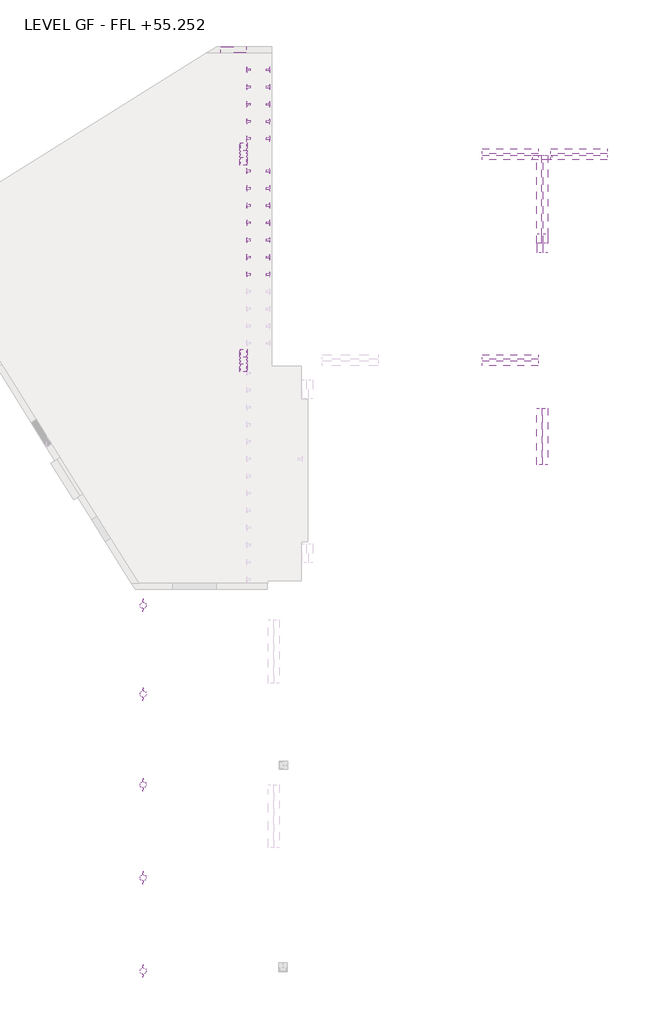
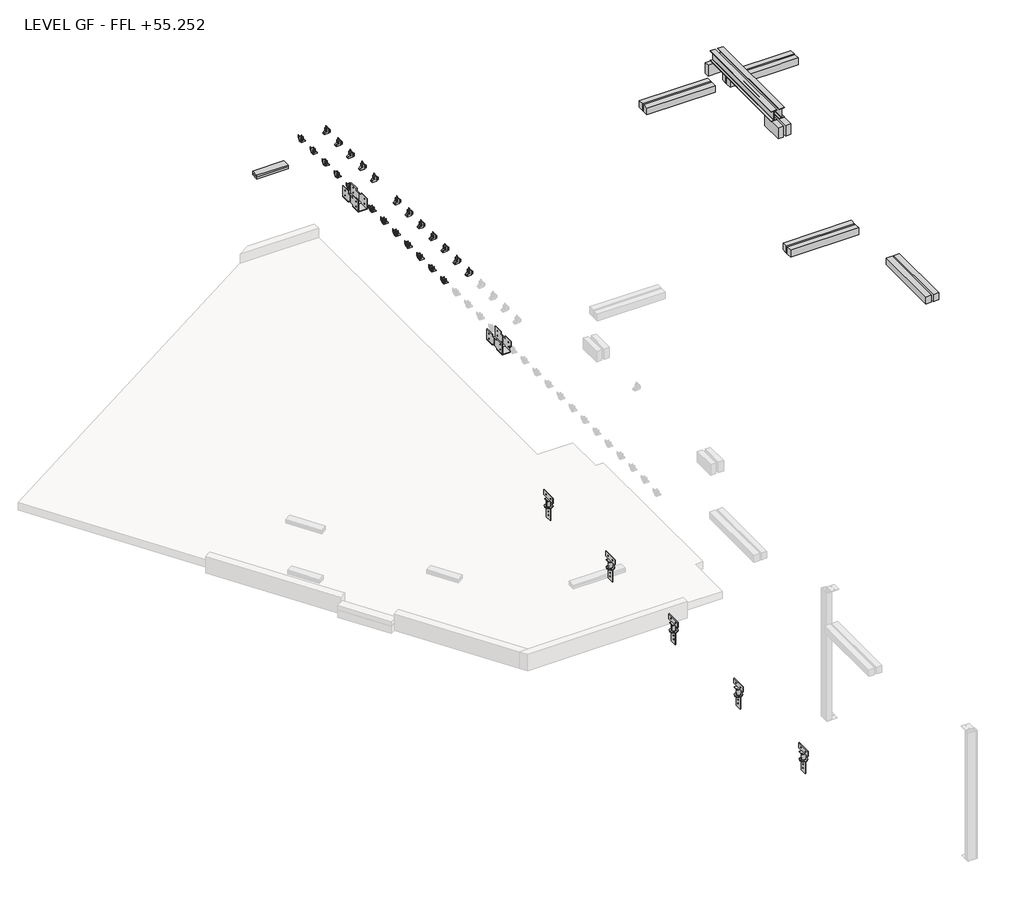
# One storey, part 2 of 2: 24 fasteners, 17 proxies, 15 beams.
"""IFC4 building model written with IfcOpenShell, lengths in millimetres."""

from ifc_helpers import new_model, si_unit, frame, origin, place, context, project, spatial, polyline, outline, extrude, transform, mapped, element, save
from components import concrete_rectangular_beam_110_x_100mm_af151667, ukb203x102x23_61a5cdbc, ukb203x102x23_350e925e, canopy_column_head_connection_canopy_column_head_connection_66bd8aa7, fin_plate_purlin_beam_connection_base_plate10_fin_plate_6cf5c322, fin_plate_purlin_beam_connection_base_plate7_fin_plate_c9cc26e2, fin_plate_purlin_beam_connection_base_plate8_fin_plate_71e1d856, fin_plate_purlin_beam_connection_base_plate9_fin_plate_a116dd7e, fin_plate_purlin_beam_connection15_fin_plate_purlin_beam_166290e8, fin_plate_purlin_beam_connection16_fin_plate_purlin_beam_bf154655, fin_plate_purlin_beam_connection18_fin_plate_purlin_beam_246c442c, fin_plate_purlin_beam_connection19_fin_plate_purlin_beam_04d053e4, fin_plate_purlin_beam_connection20_fin_plate_purlin_beam_3d1b8796, fin_plate_purlin_beam_connection21_fin_plate_purlin_beam_aa315e5e, fin_plate_purlin_beam_connection22_fin_plate_purlin_beam_f8feaea3, fin_plate_purlin_beam_connection23_fin_plate_purlin_beam_92e7c56d, sae250_50_2_sae250_50_2_05dc8403

model = new_model("IFC4")

# Units and contexts
model_context = context("Model", 3, world=origin())
ifc_project = project(units=[si_unit("LENGTHUNIT", "METRE", prefix="MILLI")], contexts=[model_context])

# Site, building, storey
site = spatial("IfcSite", under=ifc_project)
building = spatial("IfcBuilding", under=site)
storey = spatial("IfcBuildingStorey", under=building, Name="LEVEL GF - FFL +55.252", Elevation=242.0)

# Beams
placement = place(None, origin())
element("IfcBeam", 1, ObjectType="Graded Timber : 38x140", at=placement, inside=storey, context=model_context, shape_type="SweptSolid", body=[
    extrude(outline(polyline([(-29972.0411236, 18202.3367982), (-29972.0411236, 18342.3367982), (-29372.2720473, 18342.3367982), (-29372.2720473, 18202.3367982), (-29972.0411236, 18202.3367982)])), frame((0.0, 0.0, 1666.0), z_axis=(0.0, 0.0, 1.0), x_axis=(1.0, 0.0, 0.0)), (0.0, 0.0, 1.0), 38.0),
])
element("IfcBeam", 2, ObjectType="Graded Timber : 38x140", at=placement, inside=storey, context=model_context, shape_type="SweptSolid", body=[
    extrude(outline(polyline([(-29972.0411236, 18202.3367982), (-29972.0411236, 18342.3367982), (-29372.2720473, 18342.3367982), (-29372.2720473, 18202.3367982), (-29972.0411236, 18202.3367982)])), frame((0.0, 0.0, 1704.0), z_axis=(0.0, 0.0, 1.0), x_axis=(1.0, 0.0, 0.0)), (0.0, 0.0, 1.0), 38.0),
])
element("IfcBeam", 3, ObjectType="Concrete-Rectangular Beam : 110 x 100mm", at=placement, inside=storey, context=model_context, shape_type="SweptSolid", body=[
    extrude(outline(polyline([(-20989.6460033, 15826.9669708), (-20989.6460033, 15716.9669708), (-22299.6460033, 15716.9669708), (-22299.6460033, 15826.9669708), (-20989.6460033, 15826.9669708)])), frame((0.0, 0.0, 2352.0), z_axis=(0.0, 0.0, 1.0), x_axis=(1.0, 0.0, 0.0)), (0.0, 0.0, 1.0), 140.0),
])
concrete_rectangular_beam_110_x_100mm_shape = concrete_rectangular_beam_110_x_100mm_af151667(model_context)
element("IfcBeam", 4, ObjectType="Concrete-Rectangular Beam : 110 x 100mm", at=placement, inside=storey, context=model_context, shape_type="MappedRepresentation", body=[
    mapped(concrete_rectangular_beam_110_x_100mm_shape, transform((-23244.6460033, 15911.9669708, 2422.0), x_axis=(1.0, 0.0, 0.0), y_axis=(0.0, 1.0, 0.0), z_axis=(0.0, 0.0, 1.0))),
])
element("IfcBeam", 5, ObjectType="Concrete-Rectangular Beam : 110 x 100mm", at=placement, inside=storey, context=model_context, shape_type="MappedRepresentation", body=[
    mapped(concrete_rectangular_beam_110_x_100mm_shape, transform((-21644.6460033, 15911.9669708, 2422.0), x_axis=(1.0, 0.0, 0.0), y_axis=(0.0, 1.0, 0.0), z_axis=(0.0, 0.0, 1.0))),
])
element("IfcBeam", 6, ObjectType="Concrete-Rectangular Beam : 110 x 100mm", at=placement, inside=storey, context=model_context, shape_type="MappedRepresentation", body=[
    mapped(concrete_rectangular_beam_110_x_100mm_shape, transform((-23244.6460033, 15771.9669708, 2422.0), x_axis=(1.0, 0.0, 0.0), y_axis=(0.0, 1.0, 0.0), z_axis=(0.0, 0.0, 1.0))),
])
element("IfcBeam", 7, ObjectType="Concrete-Rectangular Beam : 110 x 100mm", at=placement, inside=storey, context=model_context, shape_type="MappedRepresentation", body=[
    mapped(concrete_rectangular_beam_110_x_100mm_shape, transform((-23242.6460034, 11131.9669708, 2422.0), x_axis=(1.0, 0.0, 0.0), y_axis=(0.0, 1.0, 0.0), z_axis=(0.0, 0.0, 1.0))),
])
element("IfcBeam", 8, ObjectType="Concrete-Rectangular Beam : 110 x 100mm", at=placement, inside=storey, context=model_context, shape_type="MappedRepresentation", body=[
    mapped(concrete_rectangular_beam_110_x_100mm_shape, transform((-23242.6460034, 10991.9669708, 2422.0), x_axis=(1.0, 0.0, 0.0), y_axis=(0.0, 1.0, 0.0), z_axis=(0.0, 0.0, 1.0))),
])
element("IfcBeam", 9, ObjectType="Concrete-Rectangular Beam : 110 x 100mm", at=placement, inside=storey, context=model_context, shape_type="MappedRepresentation", body=[
    mapped(concrete_rectangular_beam_110_x_100mm_shape, transform((-22567.9371107, 9291.2580781, 2422.0), x_axis=(0.0, 1.0, 0.0), y_axis=(-1.0, 0.0, 0.0), z_axis=(0.0, 0.0, 1.0))),
])
element("IfcBeam", 10, ObjectType="Concrete-Rectangular Beam : 110 x 100mm", at=placement, inside=storey, context=model_context, shape_type="MappedRepresentation", body=[
    mapped(concrete_rectangular_beam_110_x_100mm_shape, transform((-22427.9371107, 9291.2580781, 2422.0), x_axis=(0.0, 1.0, 0.0), y_axis=(-1.0, 0.0, 0.0), z_axis=(0.0, 0.0, 1.0))),
])
element("IfcBeam", 11, ObjectType="Concrete-Rectangular Beam : 215 x 100mm", at=placement, inside=storey, context=model_context, shape_type="SweptSolid", body=[
    extrude(outline(polyline([(-22279.7371106, 15821.9669708), (-22279.7371106, 15721.9669708), (-22719.7371106, 15721.9669708), (-22719.7371106, 15821.9669708), (-22279.7371106, 15821.9669708)])), frame((0.0, 0.0, 2726.8), z_axis=(0.0, 0.0, 1.0), x_axis=(1.0, 0.0, 0.0)), (0.0, 0.0, 1.0), 215.0),
])
element("IfcBeam", 12, ObjectType="Concrete-Rectangular Beam : 215 x 100mm", at=placement, inside=storey, context=model_context, shape_type="SweptSolid", body=[
    extrude(outline(polyline([(-22473.9371106, 14001.9669708), (-22373.9371106, 14001.9669708), (-22373.9371106, 13561.9669708), (-22473.9371106, 13561.9669708), (-22473.9371106, 14001.9669708)])), frame((0.0, 0.0, 2726.8), z_axis=(0.0, 0.0, 1.0), x_axis=(1.0, 0.0, 0.0)), (0.0, 0.0, 1.0), 215.0),
])
element("IfcBeam", 13, ObjectType="Concrete-Rectangular Beam : 215 x 100mm", at=placement, inside=storey, context=model_context, shape_type="SweptSolid", body=[
    extrude(outline(polyline([(-22622.1371106, 14001.9669708), (-22522.1371106, 14001.9669708), (-22522.1371106, 13561.9669708), (-22622.1371106, 13561.9669708), (-22622.1371106, 14001.9669708)])), frame((0.0, 0.0, 2726.8), z_axis=(0.0, 0.0, 1.0), x_axis=(1.0, 0.0, 0.0)), (0.0, 0.0, 1.0), 215.0),
])
ukb203x102x23_shape = ukb203x102x23_61a5cdbc(model_context)
element("IfcBeam", 14, ObjectType="UKB-UK Beams : UKB203x102x23", at=placement, inside=storey, context=model_context, shape_type="MappedRepresentation", body=[
    mapped(ukb203x102x23_shape, transform((-22572.0371106, 14765.8860967, 3043.4), x_axis=(0.0, -1.0, 0.0), y_axis=(1.0, 0.0, 0.0), z_axis=(0.0, 0.0, 1.0))),
])
ukb203x102x23_2_shape = ukb203x102x23_350e925e(model_context)
element("IfcBeam", 15, ObjectType="UKB-UK Beams : UKB203x102x23", at=placement, inside=storey, context=model_context, shape_type="MappedRepresentation", body=[
    mapped(ukb203x102x23_2_shape, transform((-22423.8371106, 14779.4669708, 3043.4), x_axis=(0.0, -1.0, 0.0), y_axis=(1.0, 0.0, 0.0), z_axis=(0.0, 0.0, 1.0))),
])

# Proxies
canopy_column_head_connection_canopy_column_head_connection_shape = canopy_column_head_connection_canopy_column_head_connection_66bd8aa7(model_context)
element("IfcBuildingElementProxy", 16, Name="Canopy Column Head Connection : Canopy Column Head Connection", ObjectType="Canopy Column Head Connection : Canopy Column Head Connection", at=placement, inside=storey, context=model_context, shape_type="MappedRepresentation", body=[
    mapped(canopy_column_head_connection_canopy_column_head_connection_shape, transform((-31770.152977, -3129.6238045, 3417.0), x_axis=(1.0, 0.0, 0.0), y_axis=(0.0, 1.0, 0.0), z_axis=(0.0, 0.0, 1.0))),
])
element("IfcBuildingElementProxy", 17, Name="Canopy Column Head Connection : Canopy Column Head Connection", ObjectType="Canopy Column Head Connection : Canopy Column Head Connection", at=placement, inside=storey, context=model_context, shape_type="MappedRepresentation", body=[
    mapped(canopy_column_head_connection_canopy_column_head_connection_shape, transform((-31769.9559584, -963.6740127, 3417.0), x_axis=(1.0, 0.0, 0.0), y_axis=(0.0, 1.0, 0.0), z_axis=(0.0, 0.0, 1.0))),
])
element("IfcBuildingElementProxy", 18, Name="Canopy Column Head Connection : Canopy Column Head Connection", ObjectType="Canopy Column Head Connection : Canopy Column Head Connection", at=placement, inside=storey, context=model_context, shape_type="MappedRepresentation", body=[
    mapped(canopy_column_head_connection_canopy_column_head_connection_shape, transform((-31769.9559584, 3304.2368568, 3417.0), x_axis=(1.0, 0.0, 0.0), y_axis=(0.0, 1.0, 0.0), z_axis=(0.0, 0.0, 1.0))),
])
element("IfcBuildingElementProxy", 19, Name="Canopy Column Head Connection : Canopy Column Head Connection", ObjectType="Canopy Column Head Connection : Canopy Column Head Connection", at=placement, inside=storey, context=model_context, shape_type="MappedRepresentation", body=[
    mapped(canopy_column_head_connection_canopy_column_head_connection_shape, transform((-31769.9559584, 5364.4959246, 3417.0), x_axis=(1.0, 0.0, 0.0), y_axis=(0.0, 1.0, 0.0), z_axis=(0.0, 0.0, 1.0))),
])
element("IfcBuildingElementProxy", 20, Name="Canopy Column Head Connection : Canopy Column Head Connection", ObjectType="Canopy Column Head Connection : Canopy Column Head Connection", at=placement, inside=storey, context=model_context, shape_type="MappedRepresentation", body=[
    mapped(canopy_column_head_connection_canopy_column_head_connection_shape, transform((-31769.9559584, 1196.80418, 3417.0), x_axis=(1.0, 0.0, 0.0), y_axis=(0.0, 1.0, 0.0), z_axis=(0.0, 0.0, 1.0))),
])
fin_plate_purlin_beam_connection_base_plate10_fin_plate_shape = fin_plate_purlin_beam_connection_base_plate10_fin_plate_6cf5c322(model_context)
element("IfcBuildingElementProxy", 21, Name="Fin Plate - Purlin Beam Connection Base Plate10 : Fin Plate - Purlin Beam Connection Base Plate", ObjectType="Fin Plate - Purlin Beam Connection Base Plate10 : Fin Plate - Purlin Beam Connection Base Plate", at=placement, inside=storey, context=model_context, shape_type="MappedRepresentation", body=[
    mapped(fin_plate_purlin_beam_connection_base_plate10_fin_plate_shape, transform((0.0, 0.0, 0.0), x_axis=(1.0, 0.0, 0.0), y_axis=(0.0, 1.0, 0.0), z_axis=(0.0, 0.0, 1.0))),
])
fin_plate_purlin_beam_connection_base_plate7_fin_plate_shape = fin_plate_purlin_beam_connection_base_plate7_fin_plate_c9cc26e2(model_context)
element("IfcBuildingElementProxy", 22, Name="Fin Plate - Purlin Beam Connection Base Plate7 : Fin Plate - Purlin Beam Connection Base Plate", ObjectType="Fin Plate - Purlin Beam Connection Base Plate7 : Fin Plate - Purlin Beam Connection Base Plate", at=placement, inside=storey, context=model_context, shape_type="MappedRepresentation", body=[
    mapped(fin_plate_purlin_beam_connection_base_plate7_fin_plate_shape, transform((0.0, 0.0, 0.0), x_axis=(1.0, 0.0, 0.0), y_axis=(0.0, 1.0, 0.0), z_axis=(0.0, 0.0, 1.0))),
])
fin_plate_purlin_beam_connection_base_plate8_fin_plate_shape = fin_plate_purlin_beam_connection_base_plate8_fin_plate_71e1d856(model_context)
element("IfcBuildingElementProxy", 23, Name="Fin Plate - Purlin Beam Connection Base Plate8 : Fin Plate - Purlin Beam Connection Base Plate", ObjectType="Fin Plate - Purlin Beam Connection Base Plate8 : Fin Plate - Purlin Beam Connection Base Plate", at=placement, inside=storey, context=model_context, shape_type="MappedRepresentation", body=[
    mapped(fin_plate_purlin_beam_connection_base_plate8_fin_plate_shape, transform((0.0, 0.0, 0.0), x_axis=(1.0, 0.0, 0.0), y_axis=(0.0, 1.0, 0.0), z_axis=(0.0, 0.0, 1.0))),
])
fin_plate_purlin_beam_connection_base_plate9_fin_plate_shape = fin_plate_purlin_beam_connection_base_plate9_fin_plate_a116dd7e(model_context)
element("IfcBuildingElementProxy", 24, Name="Fin Plate - Purlin Beam Connection Base Plate9 : Fin Plate - Purlin Beam Connection Base Plate", ObjectType="Fin Plate - Purlin Beam Connection Base Plate9 : Fin Plate - Purlin Beam Connection Base Plate", at=placement, inside=storey, context=model_context, shape_type="MappedRepresentation", body=[
    mapped(fin_plate_purlin_beam_connection_base_plate9_fin_plate_shape, transform((0.0, 0.0, 0.0), x_axis=(1.0, 0.0, 0.0), y_axis=(0.0, 1.0, 0.0), z_axis=(0.0, 0.0, 1.0))),
])
fin_plate_purlin_beam_connection15_fin_plate_purlin_beam_shape = fin_plate_purlin_beam_connection15_fin_plate_purlin_beam_166290e8(model_context)
element("IfcBuildingElementProxy", 25, Name="Fin Plate Purlin Beam Connection15 : Fin Plate Purlin Beam Connection", ObjectType="Fin Plate Purlin Beam Connection15 : Fin Plate Purlin Beam Connection", at=placement, inside=storey, context=model_context, shape_type="MappedRepresentation", body=[
    mapped(fin_plate_purlin_beam_connection15_fin_plate_purlin_beam_shape, transform((0.0, 0.0, 0.0), x_axis=(1.0, 0.0, 0.0), y_axis=(0.0, 1.0, 0.0), z_axis=(0.0, 0.0, 1.0))),
])
fin_plate_purlin_beam_connection16_fin_plate_purlin_beam_shape = fin_plate_purlin_beam_connection16_fin_plate_purlin_beam_bf154655(model_context)
element("IfcBuildingElementProxy", 26, Name="Fin Plate Purlin Beam Connection16 : Fin Plate Purlin Beam Connection", ObjectType="Fin Plate Purlin Beam Connection16 : Fin Plate Purlin Beam Connection", at=placement, inside=storey, context=model_context, shape_type="MappedRepresentation", body=[
    mapped(fin_plate_purlin_beam_connection16_fin_plate_purlin_beam_shape, transform((0.0, 0.0, 0.0), x_axis=(1.0, 0.0, 0.0), y_axis=(0.0, 1.0, 0.0), z_axis=(0.0, 0.0, 1.0))),
])
fin_plate_purlin_beam_connection18_fin_plate_purlin_beam_shape = fin_plate_purlin_beam_connection18_fin_plate_purlin_beam_246c442c(model_context)
element("IfcBuildingElementProxy", 27, Name="Fin Plate Purlin Beam Connection18 : Fin Plate Purlin Beam Connection", ObjectType="Fin Plate Purlin Beam Connection18 : Fin Plate Purlin Beam Connection", at=placement, inside=storey, context=model_context, shape_type="MappedRepresentation", body=[
    mapped(fin_plate_purlin_beam_connection18_fin_plate_purlin_beam_shape, transform((0.0, 0.0, 0.0), x_axis=(1.0, 0.0, 0.0), y_axis=(0.0, 1.0, 0.0), z_axis=(0.0, 0.0, 1.0))),
])
fin_plate_purlin_beam_connection19_fin_plate_purlin_beam_shape = fin_plate_purlin_beam_connection19_fin_plate_purlin_beam_04d053e4(model_context)
element("IfcBuildingElementProxy", 28, Name="Fin Plate Purlin Beam Connection19 : Fin Plate Purlin Beam Connection", ObjectType="Fin Plate Purlin Beam Connection19 : Fin Plate Purlin Beam Connection", at=placement, inside=storey, context=model_context, shape_type="MappedRepresentation", body=[
    mapped(fin_plate_purlin_beam_connection19_fin_plate_purlin_beam_shape, transform((0.0, 0.0, 0.0), x_axis=(1.0, 0.0, 0.0), y_axis=(0.0, 1.0, 0.0), z_axis=(0.0, 0.0, 1.0))),
])
fin_plate_purlin_beam_connection20_fin_plate_purlin_beam_shape = fin_plate_purlin_beam_connection20_fin_plate_purlin_beam_3d1b8796(model_context)
element("IfcBuildingElementProxy", 29, Name="Fin Plate Purlin Beam Connection20 : Fin Plate Purlin Beam Connection", ObjectType="Fin Plate Purlin Beam Connection20 : Fin Plate Purlin Beam Connection", at=placement, inside=storey, context=model_context, shape_type="MappedRepresentation", body=[
    mapped(fin_plate_purlin_beam_connection20_fin_plate_purlin_beam_shape, transform((0.0, 0.0, 0.0), x_axis=(1.0, 0.0, 0.0), y_axis=(0.0, 1.0, 0.0), z_axis=(0.0, 0.0, 1.0))),
])
fin_plate_purlin_beam_connection21_fin_plate_purlin_beam_shape = fin_plate_purlin_beam_connection21_fin_plate_purlin_beam_aa315e5e(model_context)
element("IfcBuildingElementProxy", 30, Name="Fin Plate Purlin Beam Connection21 : Fin Plate Purlin Beam Connection", ObjectType="Fin Plate Purlin Beam Connection21 : Fin Plate Purlin Beam Connection", at=placement, inside=storey, context=model_context, shape_type="MappedRepresentation", body=[
    mapped(fin_plate_purlin_beam_connection21_fin_plate_purlin_beam_shape, transform((0.0, 0.0, 0.0), x_axis=(1.0, 0.0, 0.0), y_axis=(0.0, 1.0, 0.0), z_axis=(0.0, 0.0, 1.0))),
])
fin_plate_purlin_beam_connection22_fin_plate_purlin_beam_shape = fin_plate_purlin_beam_connection22_fin_plate_purlin_beam_f8feaea3(model_context)
element("IfcBuildingElementProxy", 31, Name="Fin Plate Purlin Beam Connection22 : Fin Plate Purlin Beam Connection", ObjectType="Fin Plate Purlin Beam Connection22 : Fin Plate Purlin Beam Connection", at=placement, inside=storey, context=model_context, shape_type="MappedRepresentation", body=[
    mapped(fin_plate_purlin_beam_connection22_fin_plate_purlin_beam_shape, transform((0.0, 0.0, 0.0), x_axis=(1.0, 0.0, 0.0), y_axis=(0.0, 1.0, 0.0), z_axis=(0.0, 0.0, 1.0))),
])
fin_plate_purlin_beam_connection23_fin_plate_purlin_beam_shape = fin_plate_purlin_beam_connection23_fin_plate_purlin_beam_92e7c56d(model_context)
element("IfcBuildingElementProxy", 32, Name="Fin Plate Purlin Beam Connection23 : Fin Plate Purlin Beam Connection", ObjectType="Fin Plate Purlin Beam Connection23 : Fin Plate Purlin Beam Connection", at=placement, inside=storey, context=model_context, shape_type="MappedRepresentation", body=[
    mapped(fin_plate_purlin_beam_connection23_fin_plate_purlin_beam_shape, transform((0.0, 0.0, 0.0), x_axis=(1.0, 0.0, 0.0), y_axis=(0.0, 1.0, 0.0), z_axis=(0.0, 0.0, 1.0))),
])

# Fasteners
sae250_50_2_sae250_50_2_shape = sae250_50_2_sae250_50_2_05dc8403(model_context)
element("IfcFastener", 33, ObjectType="sae250-50-2 : sae250-50-2", at=placement, inside=storey, context=model_context, shape_type="MappedRepresentation", body=[
    mapped(sae250_50_2_sae250_50_2_shape, transform((-28830.4398867, 16207.2459484, 2452.4), x_axis=(-5.178801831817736e-12, -1.0, 0.0), y_axis=(1.0, -5.178801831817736e-12, 0.0), z_axis=(0.0, 0.0, 1.0))),
])
element("IfcFastener", 34, ObjectType="sae250-50-2 : sae250-50-2", at=placement, inside=storey, context=model_context, shape_type="MappedRepresentation", body=[
    mapped(sae250_50_2_sae250_50_2_shape, transform((-29366.9371106, 16207.2459484, 2452.4), x_axis=(5.184908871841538e-12, 1.0, 0.0), y_axis=(-1.0, 5.184908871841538e-12, 0.0), z_axis=(0.0, 0.0, 1.0))),
])
element("IfcFastener", 35, ObjectType="sae250-50-2 : sae250-50-2", at=placement, inside=storey, context=model_context, shape_type="MappedRepresentation", body=[
    mapped(sae250_50_2_sae250_50_2_shape, transform((-28830.4398867, 16607.2459484, 2452.4), x_axis=(-5.178801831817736e-12, -1.0, 0.0), y_axis=(1.0, -5.178801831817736e-12, 0.0), z_axis=(0.0, 0.0, 1.0))),
])
element("IfcFastener", 36, ObjectType="sae250-50-2 : sae250-50-2", at=placement, inside=storey, context=model_context, shape_type="MappedRepresentation", body=[
    mapped(sae250_50_2_sae250_50_2_shape, transform((-29366.9371106, 16607.2459484, 2452.4), x_axis=(5.184908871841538e-12, 1.0, 0.0), y_axis=(-1.0, 5.184908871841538e-12, 0.0), z_axis=(0.0, 0.0, 1.0))),
])
element("IfcFastener", 37, ObjectType="sae250-50-2 : sae250-50-2", at=placement, inside=storey, context=model_context, shape_type="MappedRepresentation", body=[
    mapped(sae250_50_2_sae250_50_2_shape, transform((-28830.4398867, 17007.2459484, 2452.4), x_axis=(-5.178801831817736e-12, -1.0, 0.0), y_axis=(1.0, -5.178801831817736e-12, 0.0), z_axis=(0.0, 0.0, 1.0))),
])
element("IfcFastener", 38, ObjectType="sae250-50-2 : sae250-50-2", at=placement, inside=storey, context=model_context, shape_type="MappedRepresentation", body=[
    mapped(sae250_50_2_sae250_50_2_shape, transform((-29366.9371106, 17007.2459484, 2452.4), x_axis=(5.184908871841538e-12, 1.0, 0.0), y_axis=(-1.0, 5.184908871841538e-12, 0.0), z_axis=(0.0, 0.0, 1.0))),
])
element("IfcFastener", 39, ObjectType="sae250-50-2 : sae250-50-2", at=placement, inside=storey, context=model_context, shape_type="MappedRepresentation", body=[
    mapped(sae250_50_2_sae250_50_2_shape, transform((-28830.4398867, 17407.2459484, 2452.4), x_axis=(-5.178801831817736e-12, -1.0, 0.0), y_axis=(1.0, -5.178801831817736e-12, 0.0), z_axis=(0.0, 0.0, 1.0))),
])
element("IfcFastener", 40, ObjectType="sae250-50-2 : sae250-50-2", at=placement, inside=storey, context=model_context, shape_type="MappedRepresentation", body=[
    mapped(sae250_50_2_sae250_50_2_shape, transform((-29366.9371106, 17407.2459484, 2452.4), x_axis=(5.184908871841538e-12, 1.0, 0.0), y_axis=(-1.0, 5.184908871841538e-12, 0.0), z_axis=(0.0, 0.0, 1.0))),
])
element("IfcFastener", 41, ObjectType="sae250-50-2 : sae250-50-2", at=placement, inside=storey, context=model_context, shape_type="MappedRepresentation", body=[
    mapped(sae250_50_2_sae250_50_2_shape, transform((-28830.4398867, 17807.2459484, 2452.4), x_axis=(-5.178801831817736e-12, -1.0, 0.0), y_axis=(1.0, -5.178801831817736e-12, 0.0), z_axis=(0.0, 0.0, 1.0))),
])
element("IfcFastener", 42, ObjectType="sae250-50-2 : sae250-50-2", at=placement, inside=storey, context=model_context, shape_type="MappedRepresentation", body=[
    mapped(sae250_50_2_sae250_50_2_shape, transform((-29366.9371106, 17807.2459484, 2452.4), x_axis=(5.184908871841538e-12, 1.0, 0.0), y_axis=(-1.0, 5.184908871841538e-12, 0.0), z_axis=(0.0, 0.0, 1.0))),
])
element("IfcFastener", 43, ObjectType="sae250-50-2 : sae250-50-2", at=placement, inside=storey, context=model_context, shape_type="MappedRepresentation", body=[
    mapped(sae250_50_2_sae250_50_2_shape, transform((-28830.4398867, 15452.6961995, 2452.4), x_axis=(-5.178801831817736e-12, -1.0, 0.0), y_axis=(1.0, -5.178801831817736e-12, 0.0), z_axis=(0.0, 0.0, 1.0))),
])
element("IfcFastener", 44, ObjectType="sae250-50-2 : sae250-50-2", at=placement, inside=storey, context=model_context, shape_type="MappedRepresentation", body=[
    mapped(sae250_50_2_sae250_50_2_shape, transform((-29366.9371106, 15452.6961995, 2452.4), x_axis=(5.184908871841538e-12, 1.0, 0.0), y_axis=(-1.0, 5.184908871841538e-12, 0.0), z_axis=(0.0, 0.0, 1.0))),
])
element("IfcFastener", 45, ObjectType="sae250-50-2 : sae250-50-2", at=placement, inside=storey, context=model_context, shape_type="MappedRepresentation", body=[
    mapped(sae250_50_2_sae250_50_2_shape, transform((-28830.4398867, 15052.6961995, 2452.4), x_axis=(-5.178801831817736e-12, -1.0, 0.0), y_axis=(1.0, -5.178801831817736e-12, 0.0), z_axis=(0.0, 0.0, 1.0))),
])
element("IfcFastener", 46, ObjectType="sae250-50-2 : sae250-50-2", at=placement, inside=storey, context=model_context, shape_type="MappedRepresentation", body=[
    mapped(sae250_50_2_sae250_50_2_shape, transform((-29366.9371106, 15052.6961995, 2452.4), x_axis=(5.184908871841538e-12, 1.0, 0.0), y_axis=(-1.0, 5.184908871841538e-12, 0.0), z_axis=(0.0, 0.0, 1.0))),
])
element("IfcFastener", 47, ObjectType="sae250-50-2 : sae250-50-2", at=placement, inside=storey, context=model_context, shape_type="MappedRepresentation", body=[
    mapped(sae250_50_2_sae250_50_2_shape, transform((-28830.4398867, 14652.6961995, 2452.4), x_axis=(-5.178801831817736e-12, -1.0, 0.0), y_axis=(1.0, -5.178801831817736e-12, 0.0), z_axis=(0.0, 0.0, 1.0))),
])
element("IfcFastener", 48, ObjectType="sae250-50-2 : sae250-50-2", at=placement, inside=storey, context=model_context, shape_type="MappedRepresentation", body=[
    mapped(sae250_50_2_sae250_50_2_shape, transform((-29366.9371106, 14652.6961995, 2452.4), x_axis=(5.184908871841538e-12, 1.0, 0.0), y_axis=(-1.0, 5.184908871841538e-12, 0.0), z_axis=(0.0, 0.0, 1.0))),
])
element("IfcFastener", 49, ObjectType="sae250-50-2 : sae250-50-2", at=placement, inside=storey, context=model_context, shape_type="MappedRepresentation", body=[
    mapped(sae250_50_2_sae250_50_2_shape, transform((-28830.4398867, 14252.6961995, 2452.4), x_axis=(-5.178801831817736e-12, -1.0, 0.0), y_axis=(1.0, -5.178801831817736e-12, 0.0), z_axis=(0.0, 0.0, 1.0))),
])
element("IfcFastener", 50, ObjectType="sae250-50-2 : sae250-50-2", at=placement, inside=storey, context=model_context, shape_type="MappedRepresentation", body=[
    mapped(sae250_50_2_sae250_50_2_shape, transform((-29366.9371106, 14252.6961995, 2452.4), x_axis=(5.184908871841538e-12, 1.0, 0.0), y_axis=(-1.0, 5.184908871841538e-12, 0.0), z_axis=(0.0, 0.0, 1.0))),
])
element("IfcFastener", 51, ObjectType="sae250-50-2 : sae250-50-2", at=placement, inside=storey, context=model_context, shape_type="MappedRepresentation", body=[
    mapped(sae250_50_2_sae250_50_2_shape, transform((-28830.4398867, 13852.6961995, 2452.4), x_axis=(-5.178801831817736e-12, -1.0, 0.0), y_axis=(1.0, -5.178801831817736e-12, 0.0), z_axis=(0.0, 0.0, 1.0))),
])
element("IfcFastener", 52, ObjectType="sae250-50-2 : sae250-50-2", at=placement, inside=storey, context=model_context, shape_type="MappedRepresentation", body=[
    mapped(sae250_50_2_sae250_50_2_shape, transform((-29366.9371106, 13852.6961995, 2452.4), x_axis=(5.184908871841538e-12, 1.0, 0.0), y_axis=(-1.0, 5.184908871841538e-12, 0.0), z_axis=(0.0, 0.0, 1.0))),
])
element("IfcFastener", 53, ObjectType="sae250-50-2 : sae250-50-2", at=placement, inside=storey, context=model_context, shape_type="MappedRepresentation", body=[
    mapped(sae250_50_2_sae250_50_2_shape, transform((-28830.4398867, 13452.6961995, 2452.4), x_axis=(-5.178801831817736e-12, -1.0, 0.0), y_axis=(1.0, -5.178801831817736e-12, 0.0), z_axis=(0.0, 0.0, 1.0))),
])
element("IfcFastener", 54, ObjectType="sae250-50-2 : sae250-50-2", at=placement, inside=storey, context=model_context, shape_type="MappedRepresentation", body=[
    mapped(sae250_50_2_sae250_50_2_shape, transform((-28830.4398867, 13052.6961995, 2452.4), x_axis=(-5.178801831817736e-12, -1.0, 0.0), y_axis=(1.0, -5.178801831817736e-12, 0.0), z_axis=(0.0, 0.0, 1.0))),
])
element("IfcFastener", 55, ObjectType="sae250-50-2 : sae250-50-2", at=placement, inside=storey, context=model_context, shape_type="MappedRepresentation", body=[
    mapped(sae250_50_2_sae250_50_2_shape, transform((-29366.9371106, 13052.6961995, 2452.4), x_axis=(5.184908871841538e-12, 1.0, 0.0), y_axis=(-1.0, 5.184908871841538e-12, 0.0), z_axis=(0.0, 0.0, 1.0))),
])
element("IfcFastener", 56, ObjectType="sae250-50-2 : sae250-50-2", at=placement, inside=storey, context=model_context, shape_type="MappedRepresentation", body=[
    mapped(sae250_50_2_sae250_50_2_shape, transform((-29366.9371106, 13452.6961995, 2452.4), x_axis=(5.184908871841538e-12, 1.0, 0.0), y_axis=(-1.0, 5.184908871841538e-12, 0.0), z_axis=(0.0, 0.0, 1.0))),
])

save(model, "model.ifc")
